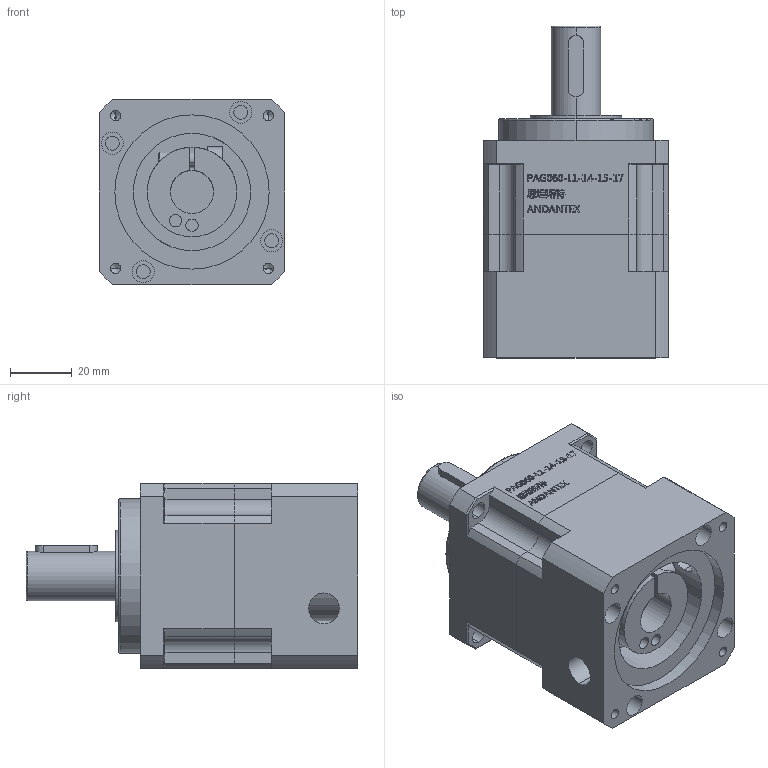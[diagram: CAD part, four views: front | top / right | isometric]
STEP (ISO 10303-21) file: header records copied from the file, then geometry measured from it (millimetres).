
FILE_DESCRIPTION (( 'STEP AP203' ), '1' );
FILE_NAME ('PAG060-L1-14-50-70.STEP', '2022-07-18T07:36:13', ( 'Windows User' ), ( 'P R C' ), 'SwSTEP 2.0', 'SolidWorks 2016', '' );
FILE_SCHEMA (( 'CONFIG_CONTROL_DESIGN' ));
Length unit declared in the file: millimetre
Products named in the file (5): 囀鞠褒蹟佪-M5℅16; PAG060-L1-14-50-70; PAG060奻裔啣; PAG060狟裔啣14-50-70; 邧埴瑩 5x5x20
Assembly tree (4 placements, depth 2):
  PAG060-L1-14-50-70
    PAG060奻裔啣
    PAG060狟裔啣14-50-70
    邧埴瑩 5x5x20
    囀鞠褒蹟佪-M5℅16
Bounding box: 60 x 107.5 x 60 mm (x, y, z)
Volume: 224465.9 mm3; surface area: 48497.6 mm2
Topology: 4 solids, 4 shells, 791 faces, 2087 edges, 1372 vertices
Faces by surface type: plane 505, cylinder 126, bspline 124, cone 28, torus 8
Entity records: 29880 total; most frequent: CARTESIAN_POINT 10458, ORIENTED_EDGE 4138, DIRECTION 3415, EDGE_CURVE 2069, LINE 1505, VECTOR 1505, VERTEX_POINT 1372, AXIS2_PLACEMENT_3D 955
